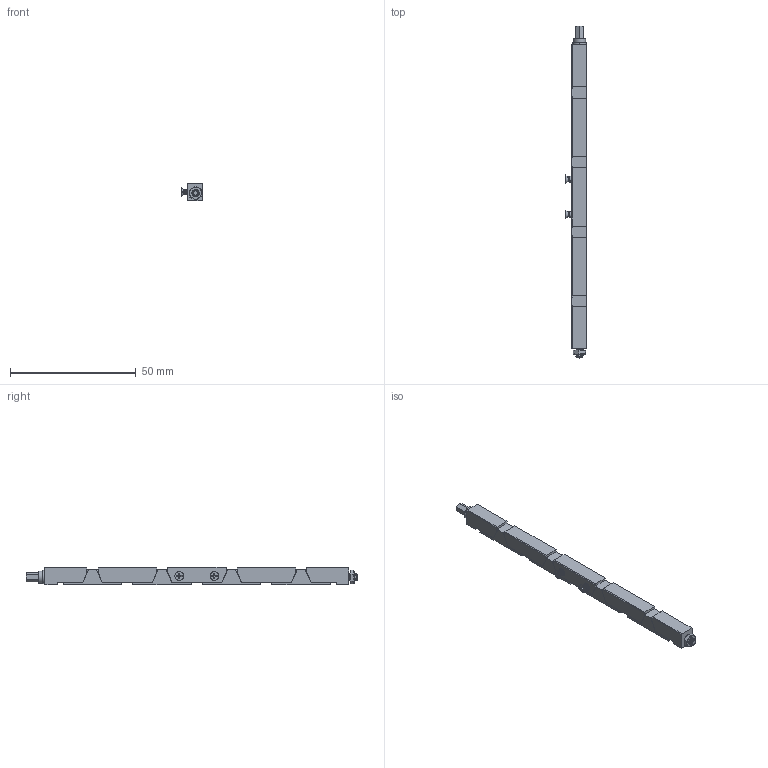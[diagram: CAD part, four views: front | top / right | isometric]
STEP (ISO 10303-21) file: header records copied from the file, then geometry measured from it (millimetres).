
FILE_DESCRIPTION (( 'STEP AP203' ), '1' );
FILE_NAME ('250-09 1-64 Side A.STEP', '2022-08-19T15:42:50', ( '' ), ( '' ), 'SwSTEP 2.0', 'SolidWorks 2021', '' );
FILE_SCHEMA (( 'CONFIG_CONTROL_DESIGN' ));
Length unit declared in the file: inch
Products named in the file (10): IL-250TB_9; IL-250#-MAW; IL-250#-MOW; FLAT HEAD PHILLIPS MACHINE SCREW SS; IL-250#-LW; NAS671C4; 250-09 1-64 Side A; NAS620C4; IL-250#-RW; U-164-0
Assembly tree (16 placements, depth 2):
  250-09 1-64 Side A
    IL-250#-MAW  x6
    IL-250#-MOW
    IL-250#-RW
    IL-250#-LW
    NAS620C4
    IL-250TB_9
    FLAT HEAD PHILLIPS MACHINE SCREW SS  x2
    U-164-0  x2
    NAS671C4
Bounding box: 8.14 x 132.08 x 7.02 mm (x, y, z)
Volume: 4103.3 mm3; surface area: 7455.2 mm2
Topology: 16 solids, 16 shells, 523 faces, 1395 edges, 912 vertices
Faces by surface type: cylinder 225, plane 216, cone 54, bspline 28
Entity records: 17201 total; most frequent: CARTESIAN_POINT 8595, ORIENTED_EDGE 1772, DIRECTION 1298, EDGE_CURVE 886, VERTEX_POINT 580, AXIS2_PLACEMENT_3D 453, LINE 392, VECTOR 392
